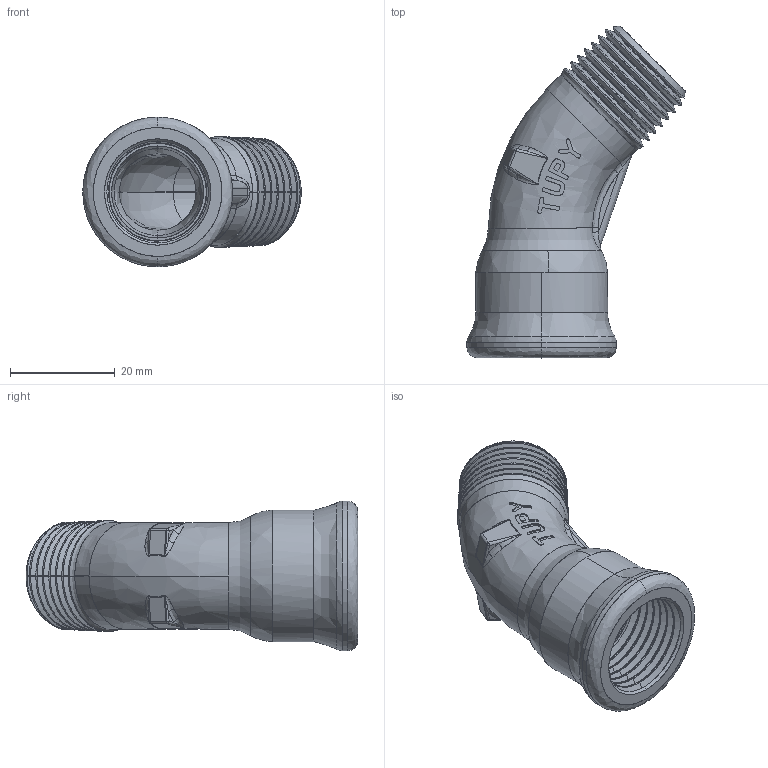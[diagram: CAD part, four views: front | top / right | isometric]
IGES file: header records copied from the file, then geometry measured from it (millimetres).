
Start section: SolidWorks IGES file using analytic representation for surfaces
Global section: file name: C:\Users\Joel Rosa\Desktop\Tubulação\12-27\12-27-004.IGS; native system: SolidWorks 2011; preprocessor: SolidWorks 2011; author: Joel Rosa; date: 131128.201002; units: millimetre
Bounding box: 41.74 x 63.44 x 28.6 mm (x, y, z)
Surface area: 9556.6 mm2 (no closed solid volume)
Topology: 0 solids, 0 shells, 331 faces, 2737 edges, 2737 vertices
Faces by surface type: bspline 235, revolution 96
